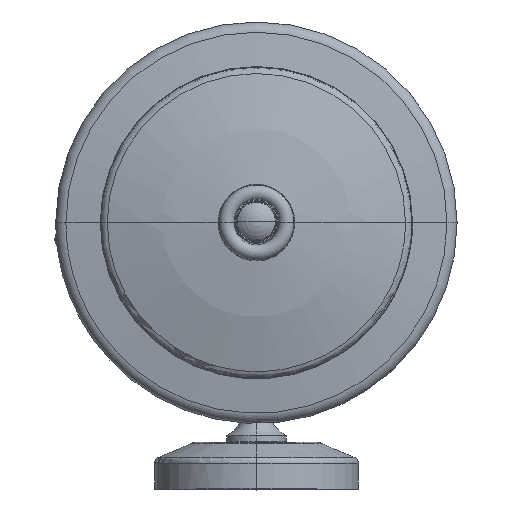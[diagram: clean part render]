
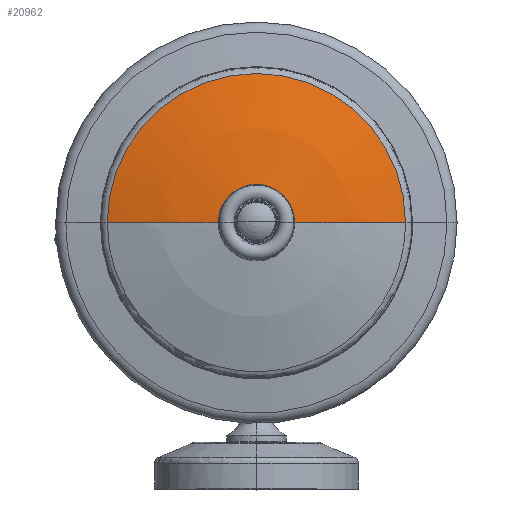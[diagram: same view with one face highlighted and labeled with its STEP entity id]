
A CAD part, top view. The second image highlights one B-rep face of the part: STEP entity #20962.
In plain terms, the highlighted spherical face has radius 150 mm.
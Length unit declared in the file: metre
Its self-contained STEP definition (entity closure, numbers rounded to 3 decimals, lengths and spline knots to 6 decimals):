
#20941=VERTEX_POINT('',#20942);
#20942=CARTESIAN_POINT('',(-0.01125,0.0645,0.020956));
#20950=VERTEX_POINT('',#20951);
#20951=CARTESIAN_POINT('',(0.01125,0.0645,0.020956));
#20962=ADVANCED_FACE('',(#20968),#20963,.T.);
#20963=SPHERICAL_SURFACE('',#20964,0.15);
#20964=AXIS2_PLACEMENT_3D('',#20965,#20966,#20967);
#20965=CARTESIAN_POINT('',(-0.0,0.0645,-0.128621));
#20966=DIRECTION('',(0.0,0.0,1.0));
#20967=DIRECTION('',(1.0,0.0,0.0));
#20968=FACE_OUTER_BOUND('',#20969,.T.);
#20969=EDGE_LOOP('',(#20970,#20981,#20988,#20995));
#20970=ORIENTED_EDGE('',*,*,#20971,.T.);
#20971=EDGE_CURVE('',#20972,#20974,#20976,.T.);
#20972=VERTEX_POINT('',#20973);
#20973=CARTESIAN_POINT('',(0.043836,0.0645,0.01483));
#20974=VERTEX_POINT('',#20975);
#20975=CARTESIAN_POINT('',(-0.043836,0.0645,0.01483)
  );
#20976=CIRCLE('',#20977,0.043836);
#20977=AXIS2_PLACEMENT_3D('',#20978,#20979,#20980);
#20978=CARTESIAN_POINT('',(-0.0,0.0645,0.01483));
#20979=DIRECTION('',(0.0,0.0,1.0));
#20980=DIRECTION('',(1.0,0.0,0.0));
#20981=ORIENTED_EDGE('',*,*,#20982,.T.);
#20982=EDGE_CURVE('',#20974,#20941,#20983,.T.);
#20983=CIRCLE('',#20984,0.15);
#20984=AXIS2_PLACEMENT_3D('',#20985,#20986,#20987);
#20985=CARTESIAN_POINT('',(-0.0,0.0645,-0.128621));
#20986=DIRECTION('',(0.,1.0,-0.0));
#20987=DIRECTION('',(-1.0,0.,0.0));
#20988=ORIENTED_EDGE('',*,*,#20989,.F.);
#20989=EDGE_CURVE('',#20950,#20941,#20990,.T.);
#20990=CIRCLE('',#20991,0.01125);
#20991=AXIS2_PLACEMENT_3D('',#20992,#20993,#20994);
#20992=CARTESIAN_POINT('',(-0.0,0.0645,0.020956));
#20993=DIRECTION('',(0.0,0.0,1.0));
#20994=DIRECTION('',(1.0,0.0,0.0));
#20995=ORIENTED_EDGE('',*,*,#20996,.F.);
#20996=EDGE_CURVE('',#20972,#20950,#20997,.T.);
#20997=CIRCLE('',#20998,0.15);
#20998=AXIS2_PLACEMENT_3D('',#20999,#21000,#21001);
#20999=CARTESIAN_POINT('',(-0.0,0.0645,-0.128621));
#21000=DIRECTION('',(0.0,-1.0,0.0));
#21001=DIRECTION('',(0.0,0.0,1.0));
